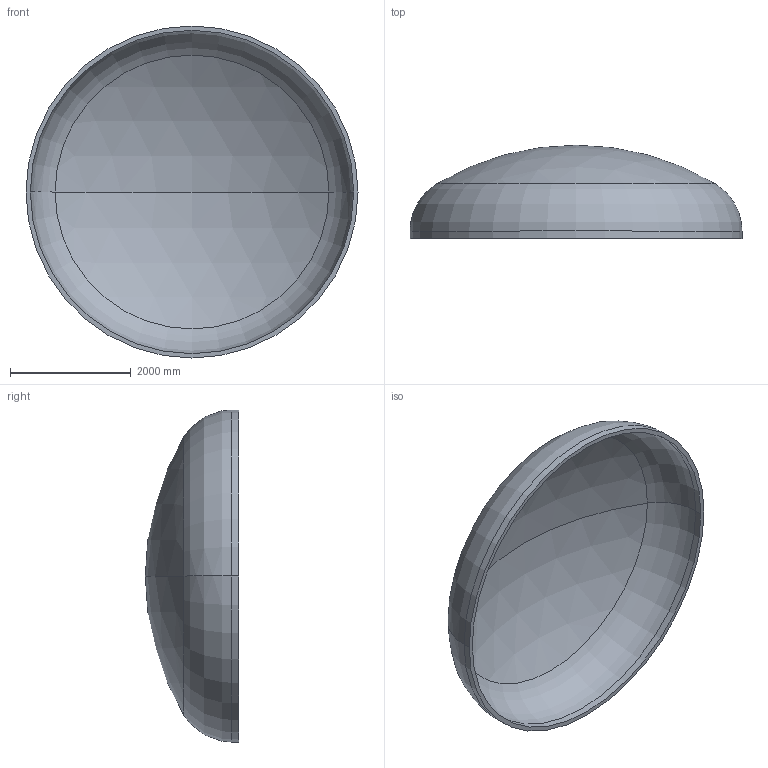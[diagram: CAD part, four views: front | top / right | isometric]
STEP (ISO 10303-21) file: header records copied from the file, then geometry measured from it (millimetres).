
FILE_DESCRIPTION (( 'STEP AP203' ), '1' );
FILE_NAME ('DIN 28013 Korbbogenform_-_Boden DIN 28013 - 5500 x 120 - I - s=72.step', '2016-07-04T10:34:44', ( '' ), ( '' ), 'SwSTEP 2.0', 'SolidWorks 2013', '' );
FILE_SCHEMA (( 'CONFIG_CONTROL_DESIGN' ));
Length unit declared in the file: millimetre
Products named in the file (1): DIN 28013 Korbbogenform_-_Boden DIN 28013 - 5500 x 120 - I - s=72
Bounding box: 5500 x 1546 x 5500 mm (x, y, z)
Volume: 2474764677.3 mm3; surface area: 69982079.6 mm2
Topology: 1 solids, 1 shells, 13 faces, 24 edges, 14 vertices
Faces by surface type: torus 4, cylinder 4, sphere 4, plane 1
Entity records: 407 total; most frequent: DIRECTION 72, CARTESIAN_POINT 52, ORIENTED_EDGE 48, AXIS2_PLACEMENT_3D 34, EDGE_CURVE 24, CIRCLE 20, EDGE_LOOP 14, VERTEX_POINT 14
